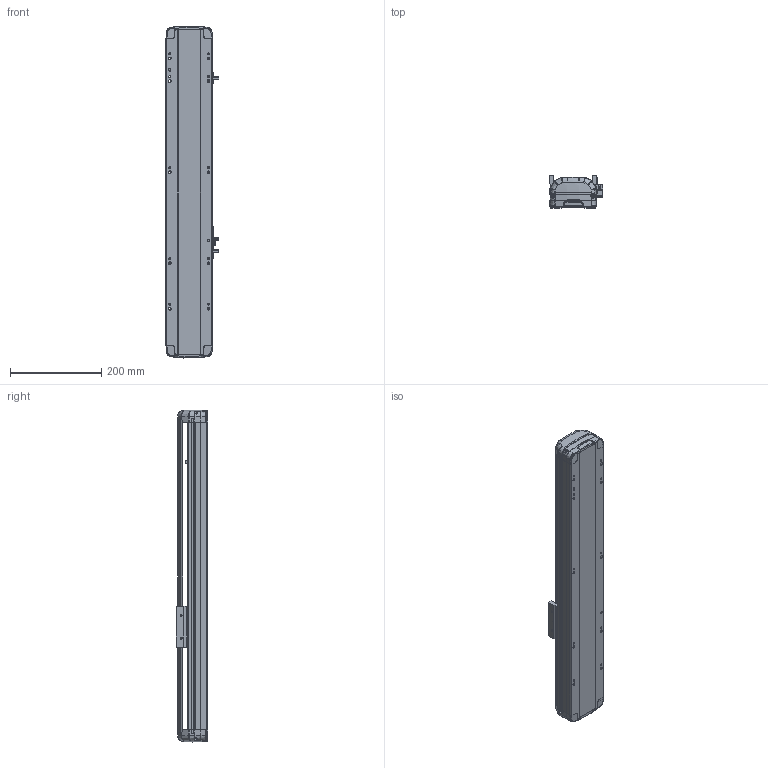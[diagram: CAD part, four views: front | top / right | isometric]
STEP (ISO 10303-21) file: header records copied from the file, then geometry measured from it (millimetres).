
FILE_DESCRIPTION (( 'STEP AP214' ), '1' );
FILE_NAME ('RTH10-XX-350-B-M10-C4.STEP', '2025-10-25T05:09:13', ( 'Microsoft' ), ( 'Microsoft' ), 'SwSTEP 2.0', 'SolidWorks 2018', '' );
FILE_SCHEMA (( 'AUTOMOTIVE_DESIGN' ));
Length unit declared in the file: millimetre
Products named in the file (7): N_RTH12-B-007P-奻裔^RTH10-XX-XX-B-M10-C4; N_RTH13-L-012覜茼え俋离^RTH10-XX-XX-B-M10-C4; N_RTH12-GY-001P^RTH10-XX-XX-B-M10-C4; N_RTH12-B-011P-臏倰第菁釱^RTH10-XX-XX-B-M10-C4; RTH10-XX-350-B-M10-C4; N_OMRON EE-SX672 传感器^RTH10-XX-XX-B-M10-C4; N_RTH12-GY-004-賑釱^RTH10-XX-XX-B-M10-C4
Assembly tree (9 placements, depth 2):
  RTH10-XX-350-B-M10-C4
    N_RTH12-B-011P-臏倰第菁釱^RTH10-XX-XX-B-M10-C4
    N_RTH13-L-012覜茼え俋离^RTH10-XX-XX-B-M10-C4
    N_OMRON EE-SX672 传感器^RTH10-XX-XX-B-M10-C4  x3
    N_RTH12-B-007P-奻裔^RTH10-XX-XX-B-M10-C4
    N_RTH12-GY-004-賑釱^RTH10-XX-XX-B-M10-C4
    N_RTH12-GY-001P^RTH10-XX-XX-B-M10-C4  x2
Bounding box: 116.5 x 70 x 729.29 mm (x, y, z)
Volume: 2767779.1 mm3; surface area: 471207.6 mm2
Topology: 7 solids, 11 shells, 2180 faces, 6100 edges, 3992 vertices
Faces by surface type: plane 1049, bspline 712, cylinder 399, cone 16, torus 4
Entity records: 48704 total; most frequent: CARTESIAN_POINT 21358, ORIENTED_EDGE 6328, DIRECTION 4408, EDGE_CURVE 3170, VERTEX_POINT 2079, VECTOR 1642, LINE 1642, AXIS2_PLACEMENT_3D 1383
